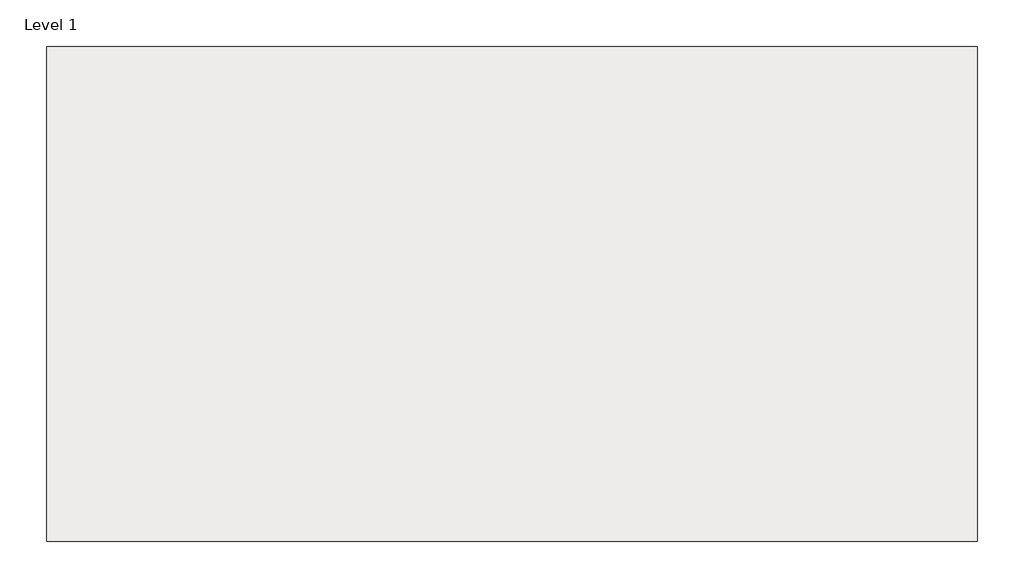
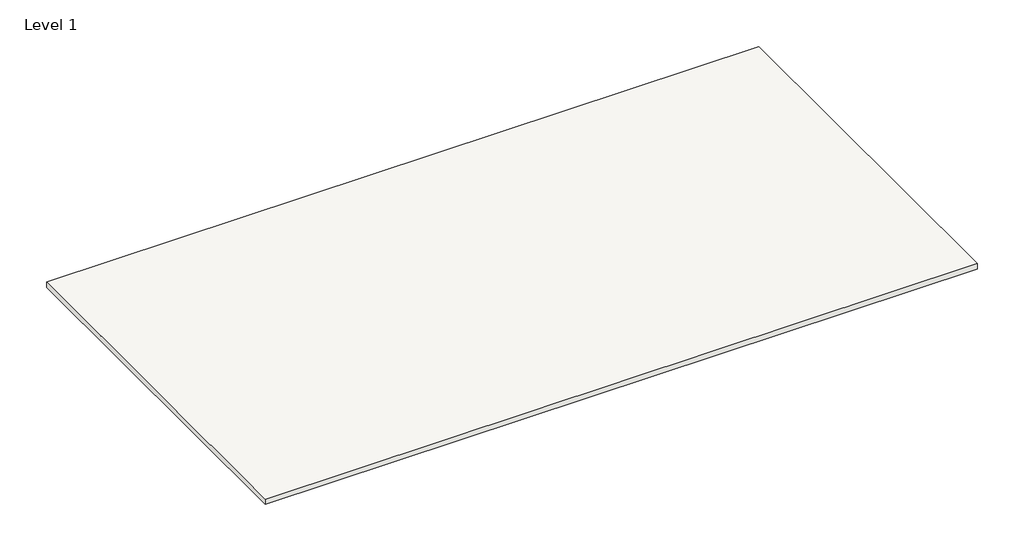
# One storey, incomplete: 1 slab.
"""IFC4 building model written with IfcOpenShell, lengths in millimetres."""

import ifcopenshell
import ifcopenshell.guid

model = None  # the IFC model being written
_history = None  # IfcOwnerHistory: only IFC2X3 demands one
_inside = {}  # id of a spatial element -> (the spatial element, [elements in it])
_under = {}  # id of a project, library or spatial element -> (it, [spatial elements below it])
_declared = {}  # id of a project -> (the project, [libraries it declares])
_typed = {}  # id of a type object -> (the type object, [elements of that type])
_made_of = {}  # id of a material, layer set ... -> (it, [elements and type objects made of it])


def new_model(schema):
    """Start an empty IFC model of exactly this schema.

    Asked for "IFC4X3", IfcOpenShell would pick the latest addendum, in which some entities
    have other attributes; the version numbers below select the first issue.
    IFC2X3 requires an IfcOwnerHistory on every rooted entity: one is made here for all.
    """
    global model, _history
    if schema == "IFC4X3":
        model = ifcopenshell.file(schema_version=(4, 3, 0, 0))
    else:
        model = ifcopenshell.file(schema=schema)
    _inside.clear()
    _under.clear()
    _declared.clear()
    _typed.clear()
    _made_of.clear()
    _history = None
    if model.schema == "IFC2X3":
        org = make("IfcOrganization", Name="unknown")
        user = make(
            "IfcPersonAndOrganization",
            ThePerson=make("IfcPerson", FamilyName="unknown"),
            TheOrganization=org,
        )
        app = make(
            "IfcApplication",
            ApplicationDeveloper=org,
            Version="unknown",
            ApplicationFullName="unknown",
            ApplicationIdentifier="unknown",
        )
        _history = make(
            "IfcOwnerHistory",
            OwningUser=user,
            OwningApplication=app,
            ChangeAction="ADDED",
            CreationDate=0,
        )
    return model


def make(cls, **values):
    """One entity of the class cls with the attributes given. An attribute that is None is left unset."""
    return model.create_entity(
        cls, **{name: value for name, value in values.items() if value is not None}
    )


def rooted(cls, **values):
    """An entity with a GlobalId (a new one), such as an element, a storey or a relation."""
    return make(cls, GlobalId=ifcopenshell.guid.new(), OwnerHistory=_history, **values)


def si_unit(unit_type, name, prefix=None):
    """IfcSIUnit, for example si_unit("LENGTHUNIT", "METRE", prefix="MILLI")."""
    return make("IfcSIUnit", UnitType=unit_type, Prefix=prefix, Name=name)


def assignment(units):
    """IfcUnitAssignment: the units of a project."""
    return None if units is None else make("IfcUnitAssignment", Units=units)


def point(xyz):
    """IfcCartesianPoint."""
    return None if xyz is None else make("IfcCartesianPoint", Coordinates=xyz)


def direction(xyz):
    """IfcDirection."""
    return None if xyz is None else make("IfcDirection", DirectionRatios=xyz)


def frame(location, z_axis=None, x_axis=None):
    """IfcAxis2Placement3D, a coordinate frame: its origin and axes. An axis left out is left unset."""
    return make(
        "IfcAxis2Placement3D",
        Location=point(location),
        Axis=direction(z_axis),
        RefDirection=direction(x_axis),
    )


def origin():
    """The frame at (0, 0, 0) with its axes left unset."""
    return frame((0.0, 0.0, 0.0))


def place(relative_to, where):
    """IfcLocalPlacement: puts the frame where relative to a parent placement (None: the world)."""
    return make(
        "IfcLocalPlacement", PlacementRelTo=relative_to, RelativePlacement=where
    )


def context(
    kind, dimensions, precision=None, world=None, true_north=None, identifier=None
):
    """IfcGeometricRepresentationContext, for example the 3D "Model" context."""
    return make(
        "IfcGeometricRepresentationContext",
        ContextIdentifier=identifier,
        ContextType=kind,
        CoordinateSpaceDimension=dimensions,
        Precision=precision,
        WorldCoordinateSystem=world,
        TrueNorth=true_north,
    )


def project(units=None, contexts=None):
    """IfcProject with its units and contexts."""
    return rooted(
        "IfcProject",
        Name="project",
        RepresentationContexts=contexts,
        UnitsInContext=assignment(units),
    )


def spatial(cls, under=None, at=None, **own):
    """A site, building, storey or space (cls), placed at a placement, below another one or the project."""
    s = rooted(cls, ObjectPlacement=at, **own)
    if under is not None:
        _under.setdefault(under.id(), (under, []))[1].append(s)
    return s


def polyline(points):
    """IfcPolyline through the points."""
    return make("IfcPolyline", Points=[point(p) for p in points])


def outline(outer, holes=None, kind="AREA"):
    """IfcArbitraryClosedProfileDef: a profile drawn as a closed curve; with holes, ...WithVoids."""
    if holes is None:
        return make("IfcArbitraryClosedProfileDef", ProfileType=kind, OuterCurve=outer)
    return make(
        "IfcArbitraryProfileDefWithVoids",
        ProfileType=kind,
        OuterCurve=outer,
        InnerCurves=holes,
    )


def extrude(swept, where, along, depth):
    """IfcExtrudedAreaSolid: the profile swept, set in the frame where, extruded along a direction by depth."""
    return make(
        "IfcExtrudedAreaSolid",
        SweptArea=swept,
        Position=where,
        ExtrudedDirection=direction(along),
        Depth=depth,
    )


def shape(context_of_items, identifier, shape_type, items):
    """IfcShapeRepresentation: the items that make up one representation, for example the "Body"."""
    return make(
        "IfcShapeRepresentation",
        ContextOfItems=context_of_items,
        RepresentationIdentifier=identifier,
        RepresentationType=shape_type,
        Items=items,
    )


def made_of(thing, what):
    """Note that an element or type object is made of a material, layer set ...; save() writes the relation."""
    if what is not None:
        _made_of.setdefault(what.id(), (what, []))[1].append(thing)
    return thing


def element(
    cls,
    number,
    at=None,
    inside=None,
    cuts=None,
    type_object=None,
    material=None,
    context=None,
    identifier="Body",
    shape_type=None,
    held_by="IfcProductDefinitionShape",
    body=None,
    shapes=None,
    **own,
):
    """One element of the class cls, such as IfcWall. Its Tag is "e" and its number.

    at: its placement. inside: the storey or other place that contains it. cuts: it is an
    opening in that element (IfcRelVoidsElement). A single representation is given by context,
    identifier, shape_type and body (its items); several are given by shapes. held_by: the class
    of the entity that holds the representations. save() writes the other relations.
    """
    e = rooted(cls, Tag="e%d" % number, ObjectPlacement=at, **own)
    if body is not None:
        shapes = [shape(context, identifier, shape_type, body)]
    if shapes is not None:
        e.Representation = make(held_by, Representations=shapes)
    if inside is not None:
        _inside.setdefault(inside.id(), (inside, []))[1].append(e)
    if cuts is not None:
        rooted(
            "IfcRelVoidsElement", RelatingBuildingElement=cuts, RelatedOpeningElement=e
        )
    if type_object is not None:
        _typed.setdefault(type_object.id(), (type_object, []))[1].append(e)
    return made_of(e, material)


def aggregate(whole, parts):
    """IfcRelAggregates: a whole, such as a stair, and the parts it consists of."""
    return rooted("IfcRelAggregates", RelatingObject=whole, RelatedObjects=parts)


def save(model, path):
    """Write the relations noted so far, then the file.

    IfcRelAggregates (storeys below a building ...), IfcRelContainedInSpatialStructure (elements
    in a storey), IfcRelDefinesByType, IfcRelAssociatesMaterial and IfcRelDeclares: one each for
    every whole, place, type object, material and project.
    """
    for whole, parts in _under.values():
        aggregate(whole, parts)
    for where, things in _inside.values():
        rooted(
            "IfcRelContainedInSpatialStructure",
            RelatedElements=things,
            RelatingStructure=where,
        )
    for kind, things in _typed.values():
        rooted("IfcRelDefinesByType", RelatedObjects=things, RelatingType=kind)
    for what, things in _made_of.values():
        rooted("IfcRelAssociatesMaterial", RelatedObjects=things, RelatingMaterial=what)
    for by, libraries in _declared.values():
        rooted("IfcRelDeclares", RelatingContext=by, RelatedDefinitions=libraries)
    model.write(path)


model = new_model("IFC4")

# Units and contexts
model_context = context("Model", 3, world=origin())
ifc_project = project(units=[si_unit("LENGTHUNIT", "METRE", prefix="MILLI")], contexts=[model_context])

# Site, building, storey
site = spatial("IfcSite", under=ifc_project)
building = spatial("IfcBuilding", under=site)
storey = spatial("IfcBuildingStorey", under=building, Name="Level 1", Elevation=0.0)

# Slab
placement = place(None, origin())
element("IfcSlab", 1, ObjectType="Generic - 12\"", at=placement, inside=storey, context=model_context, shape_type="SweptSolid", body=[
    extrude(outline(polyline([(20451.5757994, 32837.2598675), (20451.5757994, 11937.2598675), (-18848.4242006, 11937.2598675), (-18848.4242006, 32837.2598675), (20451.5757994, 32837.2598675)])), frame((0.0, 0.0, -304.8), z_axis=(0.0, 0.0, 1.0), x_axis=(1.0, 0.0, 0.0)), (0.0, 0.0, 1.0), 304.8),
])

save(model, "model.ifc")
